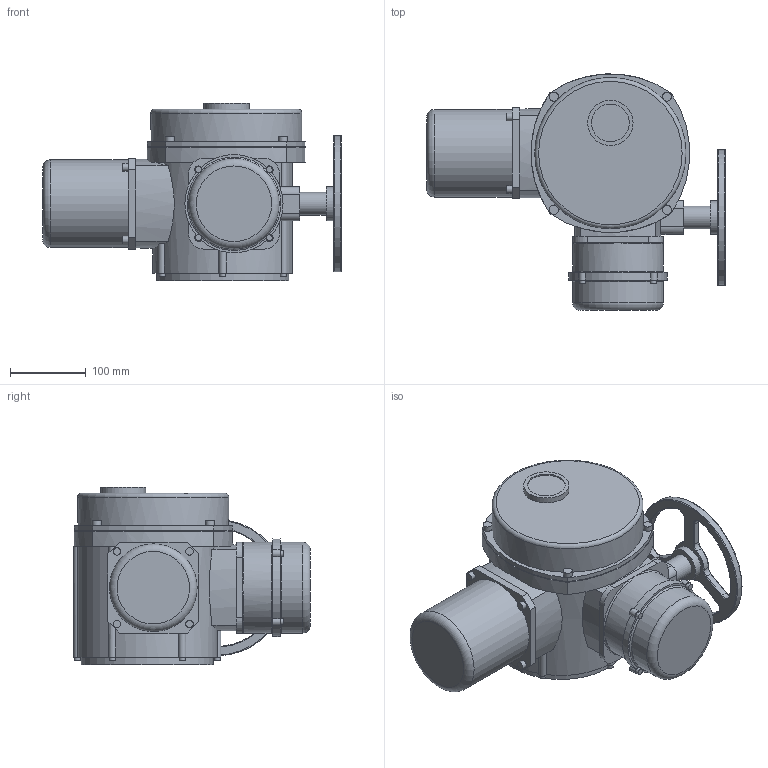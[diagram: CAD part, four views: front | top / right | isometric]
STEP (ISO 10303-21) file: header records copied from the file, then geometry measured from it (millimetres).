
FILE_DESCRIPTION(('STEP AP203'), '1');
FILE_NAME('楋樏襝鍱睯蜬蠈錪 QT.Z 120(F14)-180', '', ('UNSPECIFIED'), ('UNSPECIFIED'), 'ASCON STEP Converter 1.6', 'ASCON Math Kernel', '');
FILE_SCHEMA(('CONFIG_CONTROL_DESIGN'));
Length unit declared in the file: millimetre
Bounding box: 395 x 313.5 x 235 mm (x, y, z)
Volume: 9862790.1 mm3; surface area: 469752 mm2
Topology: 1 solids, 1 shells, 264 faces, 623 edges, 380 vertices
Faces by surface type: cylinder 118, plane 75, torus 47, cone 16, bspline 8
Full cylindrical faces by diameter (mm): 8 x10, 10 x4, 10.106 x4, 12 x4, 12.386 x1, 13.835 x4, 30 x1, 45 x1, 50 x1, 60 x1, 70 x1, 116 x1, 120 x2, 175 x1, 180 x1, 200 x1
Entity records: 11212 total; most frequent: CARTESIAN_POINT 3146, DIRECTION 1348, ORIENTED_EDGE 1088, AXIS2_PLACEMENT_3D 585, EDGE_CURVE 544, VERTEX_POINT 371, EDGE_LOOP 362, CIRCLE 328
